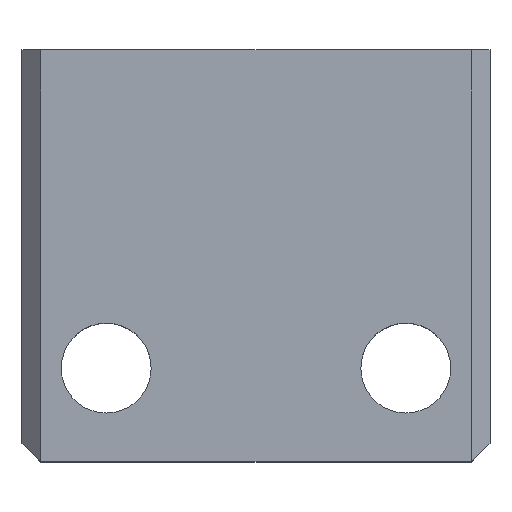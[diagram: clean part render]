
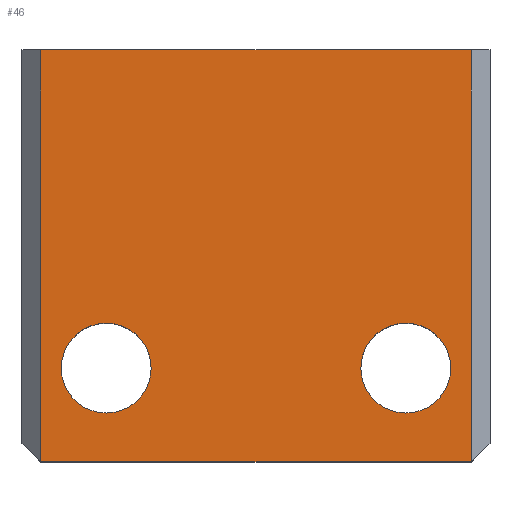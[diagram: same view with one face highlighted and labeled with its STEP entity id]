
A CAD part, top view. The second image highlights one B-rep face of the part: STEP entity #46.
In plain terms, the highlighted planar face has unit normal (0, 0, 1).
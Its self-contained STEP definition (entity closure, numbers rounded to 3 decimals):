
#3 = CARTESIAN_POINT ( 'NONE',  ( -8., -14.6, 0. ) ) ;
#7 = DIRECTION ( 'NONE',  ( 0., -1., 0. ) ) ;
#11 = CARTESIAN_POINT ( 'NONE',  ( -11.5, -22., 0. ) ) ;
#32 = AXIS2_PLACEMENT_3D ( 'NONE', #288, #289, #292 ) ;
#39 = CARTESIAN_POINT ( 'NONE',  ( 8., -19.4, 0. ) ) ;
#46 = ADVANCED_FACE ( 'NONE', ( #520, #441, #171 ), #88, .F. ) ;
#66 = ORIENTED_EDGE ( 'NONE', *, *, #271, .T. ) ;
#88 = PLANE ( 'NONE',  #649 ) ;
#90 = CARTESIAN_POINT ( 'NONE',  ( -8., -17., 0. ) ) ;
#91 = DIRECTION ( 'NONE',  ( 0., 0., -1. ) ) ;
#92 = DIRECTION ( 'NONE',  ( 0., 1., 0. ) ) ;
#100 = CARTESIAN_POINT ( 'NONE',  ( 12.5, 0., 0. ) ) ;
#109 = DIRECTION ( 'NONE',  ( -1., 0., 0. ) ) ;
#123 = ORIENTED_EDGE ( 'NONE', *, *, #505, .T. ) ;
#132 = CARTESIAN_POINT ( 'NONE',  ( 11.5, -22., 0. ) ) ;
#139 = ORIENTED_EDGE ( 'NONE', *, *, #704, .F. ) ;
#140 = ORIENTED_EDGE ( 'NONE', *, *, #290, .T. ) ;
#171 = FACE_OUTER_BOUND ( 'NONE', #484, .T. ) ;
#173 = CARTESIAN_POINT ( 'NONE',  ( 8., -17., 0. ) ) ;
#192 = CARTESIAN_POINT ( 'NONE',  ( -8., -17., 0. ) ) ;
#194 = DIRECTION ( 'NONE',  ( 0., 0., -1. ) ) ;
#195 = DIRECTION ( 'NONE',  ( 0., 1., 0. ) ) ;
#222 = LINE ( 'NONE', #302, #250 ) ;
#235 = CIRCLE ( 'NONE', #32, 2.4 ) ;
#240 = CARTESIAN_POINT ( 'NONE',  ( -8., -19.4, 0. ) ) ;
#250 = VECTOR ( 'NONE', #320, 1000. ) ;
#253 = CARTESIAN_POINT ( 'NONE',  ( 8., -14.6, 0. ) ) ;
#267 = ORIENTED_EDGE ( 'NONE', *, *, #617, .T. ) ;
#271 = EDGE_CURVE ( 'NONE', #703, #399, #515, .T. ) ;
#282 = CARTESIAN_POINT ( 'NONE',  ( -11.5, 0., 0. ) ) ;
#284 = AXIS2_PLACEMENT_3D ( 'NONE', #173, #562, #616 ) ;
#288 = CARTESIAN_POINT ( 'NONE',  ( 8., -17., 0. ) ) ;
#289 = DIRECTION ( 'NONE',  ( 0., 0., -1. ) ) ;
#290 = EDGE_CURVE ( 'NONE', #651, #525, #548, .T. ) ;
#292 = DIRECTION ( 'NONE',  ( 0., 1., 0. ) ) ;
#297 = CARTESIAN_POINT ( 'NONE',  ( 11.5, -22., 0. ) ) ;
#298 = CIRCLE ( 'NONE', #497, 2.4 ) ;
#302 = CARTESIAN_POINT ( 'NONE',  ( 12.5, -22., 0. ) ) ;
#320 = DIRECTION ( 'NONE',  ( -1., 0., 0. ) ) ;
#345 = VECTOR ( 'NONE', #464, 1000. ) ;
#383 = VERTEX_POINT ( 'NONE', #3 ) ;
#393 = VERTEX_POINT ( 'NONE', #435 ) ;
#399 = VERTEX_POINT ( 'NONE', #687 ) ;
#411 = ORIENTED_EDGE ( 'NONE', *, *, #694, .T. ) ;
#435 = CARTESIAN_POINT ( 'NONE',  ( -11.5, -22., 0. ) ) ;
#441 = FACE_BOUND ( 'NONE', #481, .T. ) ;
#452 = LINE ( 'NONE', #11, #721 ) ;
#464 = DIRECTION ( 'NONE',  ( 0., 1., 0. ) ) ;
#470 = AXIS2_PLACEMENT_3D ( 'NONE', #90, #91, #92 ) ;
#476 = ORIENTED_EDGE ( 'NONE', *, *, #567, .T. ) ;
#481 = EDGE_LOOP ( 'NONE', ( #267, #712 ) ) ;
#484 = EDGE_LOOP ( 'NONE', ( #476, #123, #139, #66 ) ) ;
#497 = AXIS2_PLACEMENT_3D ( 'NONE', #192, #194, #195 ) ;
#505 = EDGE_CURVE ( 'NONE', #695, #393, #452, .T. ) ;
#515 = LINE ( 'NONE', #132, #345 ) ;
#520 = FACE_BOUND ( 'NONE', #654, .T. ) ;
#525 = VERTEX_POINT ( 'NONE', #39 ) ;
#528 = DIRECTION ( 'NONE',  ( 0., 0., -1. ) ) ;
#533 = CIRCLE ( 'NONE', #470, 2.4 ) ;
#548 = CIRCLE ( 'NONE', #284, 2.4 ) ;
#560 = EDGE_CURVE ( 'NONE', #685, #383, #533, .T. ) ;
#562 = DIRECTION ( 'NONE',  ( 0., 0., -1. ) ) ;
#567 = EDGE_CURVE ( 'NONE', #399, #695, #594, .T. ) ;
#575 = CARTESIAN_POINT ( 'NONE',  ( 12.5, -22., 0. ) ) ;
#580 = DIRECTION ( 'NONE',  ( -1., 0., 0. ) ) ;
#594 = LINE ( 'NONE', #100, #604 ) ;
#604 = VECTOR ( 'NONE', #109, 1000. ) ;
#616 = DIRECTION ( 'NONE',  ( 0., 1., 0. ) ) ;
#617 = EDGE_CURVE ( 'NONE', #383, #685, #298, .T. ) ;
#649 = AXIS2_PLACEMENT_3D ( 'NONE', #575, #528, #580 ) ;
#651 = VERTEX_POINT ( 'NONE', #253 ) ;
#654 = EDGE_LOOP ( 'NONE', ( #140, #411 ) ) ;
#685 = VERTEX_POINT ( 'NONE', #240 ) ;
#687 = CARTESIAN_POINT ( 'NONE',  ( 11.5, 0., 0. ) ) ;
#694 = EDGE_CURVE ( 'NONE', #525, #651, #235, .T. ) ;
#695 = VERTEX_POINT ( 'NONE', #282 ) ;
#703 = VERTEX_POINT ( 'NONE', #297 ) ;
#704 = EDGE_CURVE ( 'NONE', #703, #393, #222, .T. ) ;
#712 = ORIENTED_EDGE ( 'NONE', *, *, #560, .T. ) ;
#721 = VECTOR ( 'NONE', #7, 1000. ) ;
